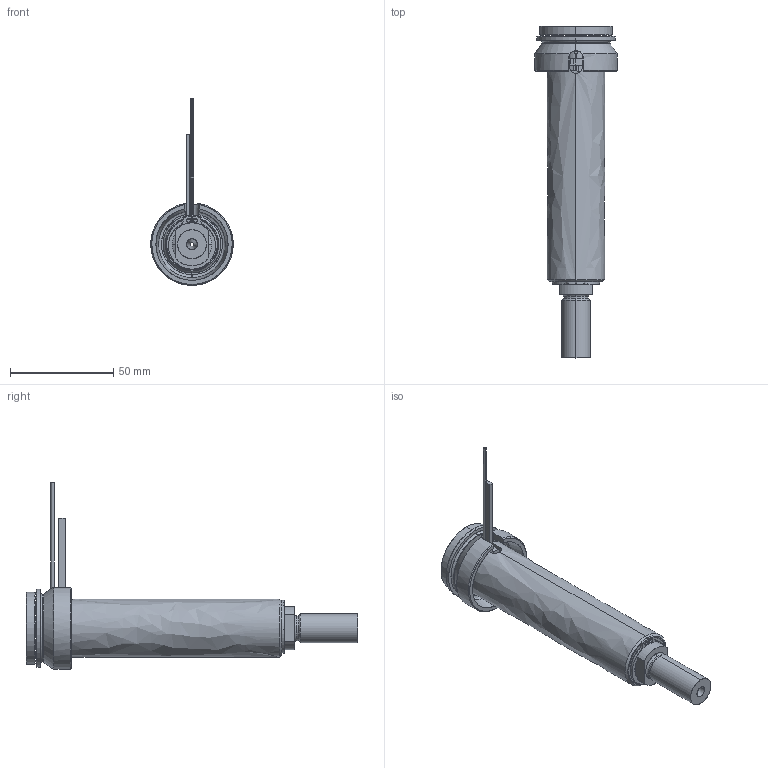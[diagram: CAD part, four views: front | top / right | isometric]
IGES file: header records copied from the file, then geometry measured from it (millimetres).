
Start section: SolidWorks IGES file using analytic representation for surfaces
Global section: file name: C:\Documents and Settings\ws-20\Desktop\TEMPORANEA\UGBE4003-S-A-P-3 [Ød-2.0 P-25 ØC-09].IGS; native system: SolidWorks 2012; preprocessor: SolidWorks 2012; author: ws-20; date: 120306.123657; units: millimetre
Bounding box: 40 x 161 x 90.65 mm (x, y, z)
Surface area: 42679.6 mm2 (no closed solid volume)
Topology: 0 solids, 0 shells, 105 faces, 1773 edges, 1773 vertices
Faces by surface type: revolution 66, bspline 39
